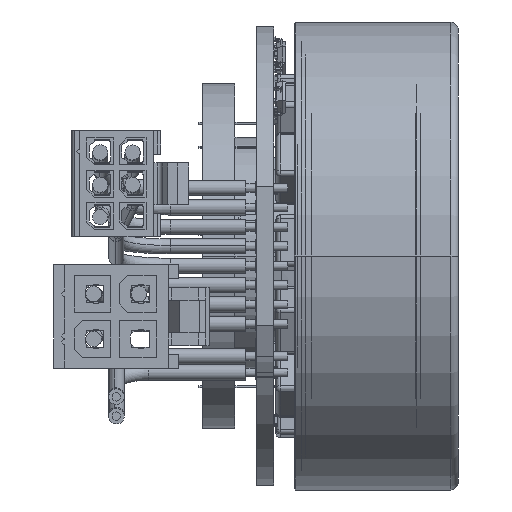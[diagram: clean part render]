
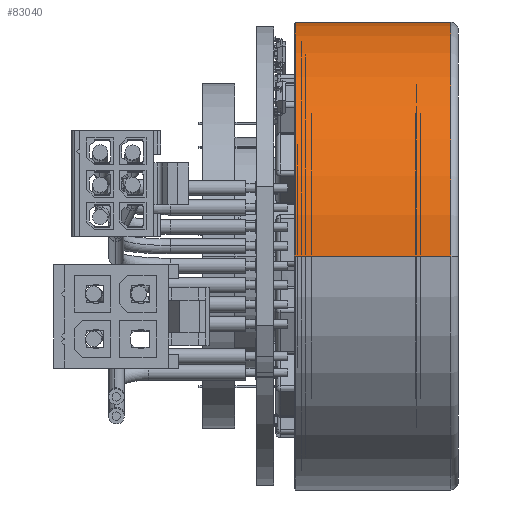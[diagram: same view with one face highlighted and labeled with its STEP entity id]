
A CAD part, front view. The second image highlights one B-rep face of the part: STEP entity #83040.
In plain terms, the highlighted cylindrical face has radius 21.7 mm (diameter 43.4 mm), a partial arc.
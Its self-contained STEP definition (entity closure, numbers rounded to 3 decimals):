
#82031=CARTESIAN_POINT('',(8.6,0.,0.));
#82032=DIRECTION('',(-1.,0.,0.));
#82033=DIRECTION('',(0.,-1.,0.));
#82034=AXIS2_PLACEMENT_3D('',#82031,#82032,#82033);
#82039=CARTESIAN_POINT('',(23.,0.,0.));
#82040=DIRECTION('',(-1.,0.,0.));
#82041=DIRECTION('',(0.,-1.,0.));
#82042=AXIS2_PLACEMENT_3D('',#82039,#82040,#82041);
#82055=DIRECTION('',(-1.,0.,0.));
#82056=VECTOR('',#82055,14.4);
#82057=CARTESIAN_POINT('',(23.,-21.7,0.));
#82058=LINE('',#82057,#82056);
#82070=DIRECTION('',(-1.,0.,0.));
#82071=VECTOR('',#82070,14.4);
#82072=CARTESIAN_POINT('',(23.,21.7,0.));
#82073=LINE('',#82072,#82071);
#82879=CARTESIAN_POINT('',(23.,21.7,0.));
#82880=CARTESIAN_POINT('',(23.,-21.7,0.));
#82881=VERTEX_POINT('',#82879);
#82882=VERTEX_POINT('',#82880);
#82919=CARTESIAN_POINT('',(8.6,-21.7,0.));
#82920=CARTESIAN_POINT('',(8.6,21.7,0.));
#82921=VERTEX_POINT('',#82919);
#82922=VERTEX_POINT('',#82920);
#83026=CARTESIAN_POINT('',(-13.779,0.,0.));
#83027=DIRECTION('',(1.,0.,0.));
#83028=DIRECTION('',(0.,-1.,0.));
#83029=AXIS2_PLACEMENT_3D('',#83026,#83027,#83028);
#83030=CYLINDRICAL_SURFACE('',#83029,21.7);
#83031=ORIENTED_EDGE('',*,*,#83013,.T.);
#83033=ORIENTED_EDGE('',*,*,#83032,.F.);
#83035=ORIENTED_EDGE('',*,*,#83034,.F.);
#83037=ORIENTED_EDGE('',*,*,#83036,.T.);
#83038=EDGE_LOOP('',(#83031,#83033,#83035,#83037));
#83039=FACE_OUTER_BOUND('',#83038,.F.);
#83040=ADVANCED_FACE('',(#83039),#83030,.T.);
#82035=CIRCLE('',#82034,21.7);
#82043=CIRCLE('',#82042,21.7);
#83013=EDGE_CURVE('',#82921,#82922,#82035,.T.);
#83032=EDGE_CURVE('',#82881,#82922,#82073,.T.);
#83034=EDGE_CURVE('',#82882,#82881,#82043,.T.);
#83036=EDGE_CURVE('',#82882,#82921,#82058,.T.);
